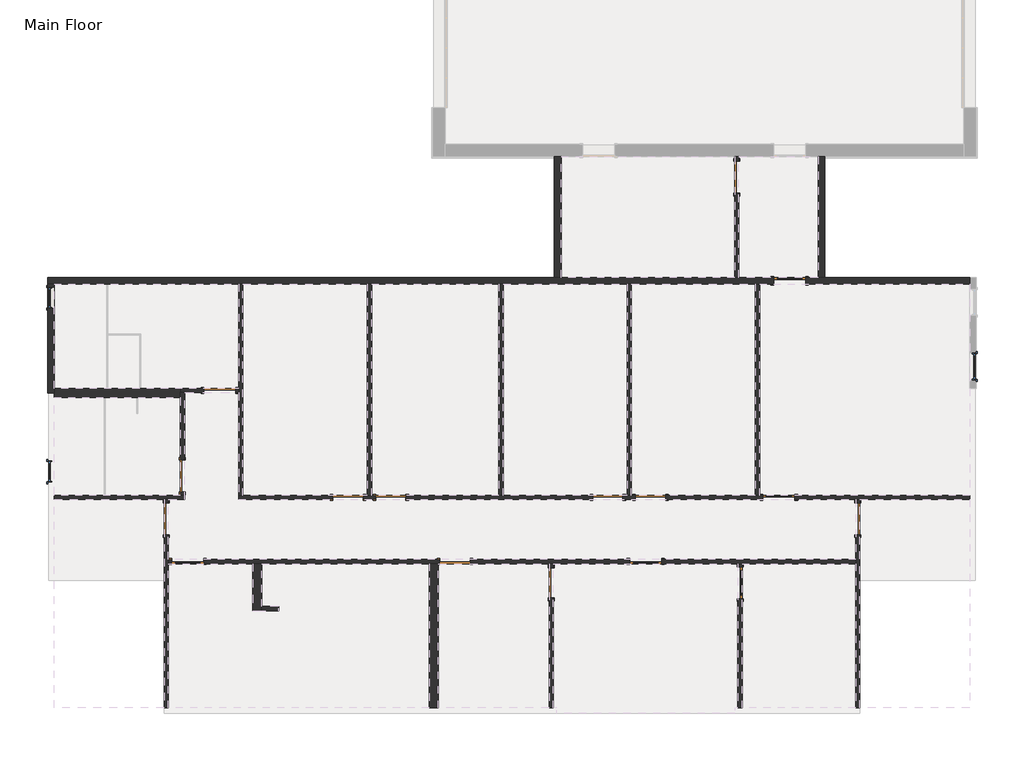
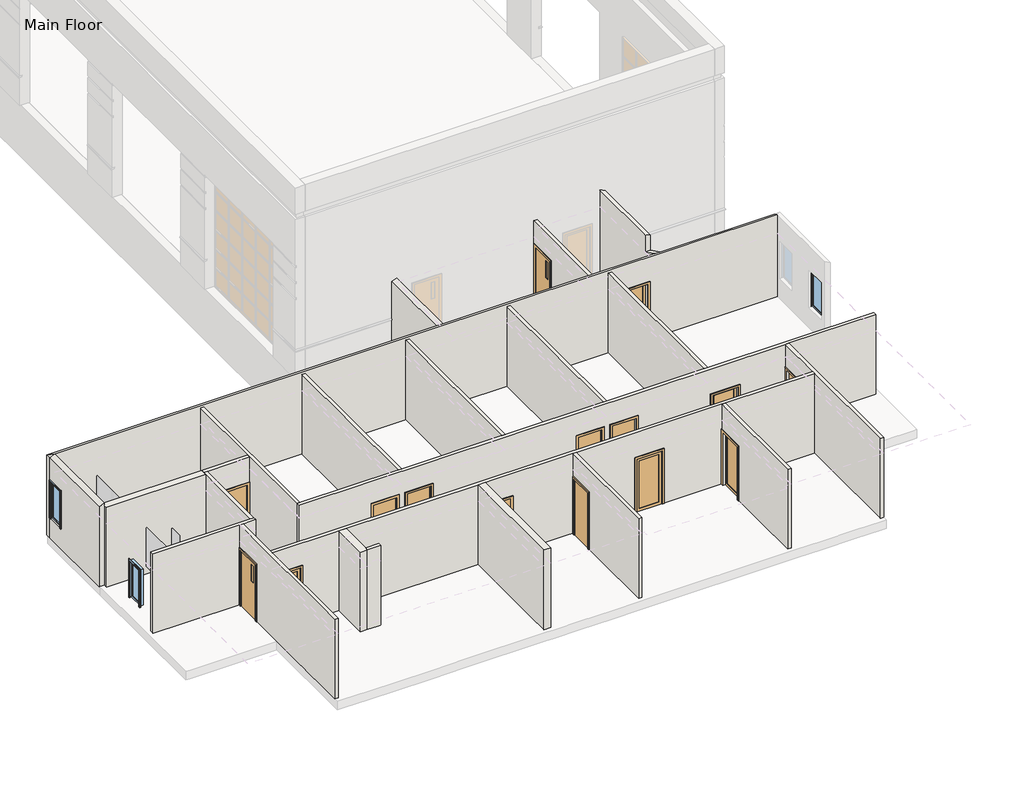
# One storey, part 1 of 3: 23 walls, 16 doors, 3 windows.
"""IFC4 building model written with IfcOpenShell, lengths in millimetres."""

from ifc_helpers import new_model, si_unit, frame, origin, place, context, project, spatial, polyline, outline, extrude, faceted_brep, transform, mapped, element, save
from components import door_7c9e1b45, door_3b0d1d25, door_0f3f7c0c, door_43f271b1, door_2a3d4b99, door_1467a2ec, door_29a6ff79, door_8812bb35, door_9b494dca, door_30311ba1, window_0248c27b, window_3b8f106a

model = new_model("IFC4")

# Units and contexts
model_context = context("Model", 3, world=origin())
ifc_project = project(units=[si_unit("LENGTHUNIT", "METRE", prefix="MILLI")], contexts=[model_context])

# Site, building, storey
site = spatial("IfcSite", under=ifc_project)
building = spatial("IfcBuilding", under=site)
storey = spatial("IfcBuildingStorey", under=building, Name="Main Floor", Elevation=42672.0)

# Doors
placement = place(None, origin())
door_shape = door_7c9e1b45(model_context)
element("IfcDoor", 1, ObjectType="Single-Flush : 34\" x 84\"", at=placement, inside=storey, context=model_context, shape_type="MappedRepresentation", body=[
    mapped(door_shape, transform((-17264.0917336, -9860.0394844, 42672.0), x_axis=(1.0, 0.0, 0.0), y_axis=(0.0, 1.0, 0.0), z_axis=(0.0, 0.0, 1.0))),
])
element("IfcDoor", 2, ObjectType="Single-Flush : 34\" x 84\"", at=placement, inside=storey, context=model_context, shape_type="MappedRepresentation", body=[
    mapped(door_shape, transform((-9858.4042336, -9860.0394844, 42672.0), x_axis=(1.0, 0.0, 0.0), y_axis=(0.0, 1.0, 0.0), z_axis=(0.0, 0.0, 1.0))),
])
element("IfcDoor", 3, ObjectType="Single-Flush : 34\" x 84\"", at=placement, inside=storey, context=model_context, shape_type="MappedRepresentation", body=[
    mapped(door_shape, transform((-14216.0917336, -11688.8394844, 42672.0), x_axis=(-1.0, 0.0, 0.0), y_axis=(0.0, -1.0, 0.0), z_axis=(0.0, 0.0, 1.0))),
])
element("IfcDoor", 4, ObjectType="Single-Flush : 34\" x 84\"", at=placement, inside=storey, context=model_context, shape_type="MappedRepresentation", body=[
    mapped(door_shape, transform((-11472.8917336, -12298.4394844, 42672.0), x_axis=(0.0, 1.0, 0.0), y_axis=(-1.0, 0.0, 0.0), z_axis=(0.0, 0.0, 1.0))),
])
door_2_shape = door_3b0d1d25(model_context)
element("IfcDoor", 5, ObjectType="Single-Flush : 34\" x 84\"", at=placement, inside=storey, context=model_context, shape_type="MappedRepresentation", body=[
    mapped(door_2_shape, transform((-16044.8917336, -9860.0394844, 42672.0), x_axis=(-1.0, 0.0, 0.0), y_axis=(0.0, -1.0, 0.0), z_axis=(0.0, 0.0, 1.0))),
])
element("IfcDoor", 6, ObjectType="Single-Flush : 34\" x 84\"", at=placement, inside=storey, context=model_context, shape_type="MappedRepresentation", body=[
    mapped(door_2_shape, transform((-8639.2042336, -9860.0394844, 42672.0), x_axis=(-1.0, 0.0, 0.0), y_axis=(0.0, -1.0, 0.0), z_axis=(0.0, 0.0, 1.0))),
])
door_3_shape = door_0f3f7c0c(model_context)
element("IfcDoor", 7, ObjectType="Single-Flush : 36\" x 80\"", at=placement, inside=storey, context=model_context, shape_type="MappedRepresentation", body=[
    mapped(door_3_shape, transform((-21988.4917336, -9250.4394844, 42672.0), x_axis=(0.0, -1.0, 0.0), y_axis=(1.0, 0.0, 0.0), z_axis=(0.0, 0.0, 1.0))),
])
door_4_shape = door_43f271b1(model_context)
element("IfcDoor", 8, ObjectType="Single-Flush : 36\" x 80\"", at=placement, inside=storey, context=model_context, shape_type="MappedRepresentation", body=[
    mapped(door_4_shape, transform((-20921.6917336, -6808.8644844, 42672.0), x_axis=(1.0, 0.0, 0.0), y_axis=(0.0, 1.0, 0.0), z_axis=(0.0, 0.0, 1.0))),
])
door_5_shape = door_2a3d4b99(model_context)
element("IfcDoor", 9, ObjectType="Single-Flush Vision : 36\" x 84\"", at=placement, inside=storey, context=model_context, shape_type="MappedRepresentation", body=[
    mapped(door_5_shape, transform((-22445.6917336, -10469.6394844, 42672.0), x_axis=(0.0, 1.0, 0.0), y_axis=(-1.0, 0.0, 0.0), z_axis=(0.0, 0.0, 1.0))),
])
element("IfcDoor", 10, ObjectType="Single-Flush Vision : 36\" x 84\"", at=placement, inside=storey, context=model_context, shape_type="MappedRepresentation", body=[
    mapped(door_5_shape, transform((-6181.7542336, -727.1519844, 42672.0), x_axis=(0.0, 1.0, 0.0), y_axis=(-1.0, 0.0, 0.0), z_axis=(0.0, 0.0, 1.0))),
])
door_6_shape = door_1467a2ec(model_context)
element("IfcDoor", 11, ObjectType="Single-Flush Vision : 36\" x 84\"", at=placement, inside=storey, context=model_context, shape_type="MappedRepresentation", body=[
    mapped(door_6_shape, transform((-2735.2917336, -10469.6394844, 42672.0), x_axis=(0.0, 1.0, 0.0), y_axis=(-1.0, 0.0, 0.0), z_axis=(0.0, 0.0, 1.0))),
])
door_7_shape = door_29a6ff79(model_context)
element("IfcDoor", 12, ObjectType="Single-Glass 1 : 36\" x 80\"", at=placement, inside=storey, context=model_context, shape_type="MappedRepresentation", body=[
    mapped(door_7_shape, transform((-8780.4917336, -11688.8394844, 42672.0), x_axis=(-1.0, 0.0, 0.0), y_axis=(0.0, -1.0, 0.0), z_axis=(0.0, 0.0, 1.0))),
])
door_8_shape = door_8812bb35(model_context)
element("IfcDoor", 13, ObjectType="Single-Glass 1 : 36\" x 80\"", at=placement, inside=storey, context=model_context, shape_type="MappedRepresentation", body=[
    mapped(door_8_shape, transform((-6088.0917336, -12298.4394844, 42672.0), x_axis=(0.0, 1.0, 0.0), y_axis=(-1.0, 0.0, 0.0), z_axis=(0.0, 0.0, 1.0))),
])
element("IfcDoor", 14, ObjectType="Single-Glass 1 : 36\" x 80\"", at=placement, inside=storey, context=model_context, shape_type="MappedRepresentation", body=[
    mapped(door_8_shape, transform((-4981.6042336, -9860.0394844, 42672.0), x_axis=(-1.0, 0.0, 0.0), y_axis=(0.0, -1.0, 0.0), z_axis=(0.0, 0.0, 1.0))),
])
door_9_shape = door_9b494dca(model_context)
element("IfcDoor", 15, ObjectType="Single-Glass 1 : 36\" x 84\"", at=placement, inside=storey, context=model_context, shape_type="MappedRepresentation", body=[
    mapped(door_9_shape, transform((-4676.8042336, -3684.6644844, 42672.0), x_axis=(-1.0, 0.0, 0.0), y_axis=(0.0, -1.0, 0.0), z_axis=(0.0, 0.0, 1.0))),
])
door_10_shape = door_30311ba1(model_context)
element("IfcDoor", 16, ObjectType="Single-Glass 1 : 36\" x 84\"", at=placement, inside=storey, context=model_context, shape_type="MappedRepresentation", body=[
    mapped(door_10_shape, transform((-21836.0917336, -11688.8394844, 42672.0), x_axis=(-1.0, 0.0, 0.0), y_axis=(0.0, -1.0, 0.0), z_axis=(0.0, 0.0, 1.0))),
])

# Walls
element("IfcWall", 17, ObjectType="Exterior - Siding", at=placement, inside=storey, context=model_context, shape_type="Brep", body=[
    faceted_brep([(-25830.2417336, -3778.3269844, 42672.0), (-25642.9167336, -3778.3269844, 42672.0), (-20385.1167336, -3778.3269844, 42672.0), (-20261.2917336, -3778.3269844, 42672.0), (-16716.4042336, -3778.3269844, 42672.0), (-16592.5792336, -3778.3269844, 42672.0), (-12968.3167336, -3778.3269844, 42672.0), (-12844.4917336, -3778.3269844, 42672.0), (-9310.7167336, -3778.3269844, 42672.0), (-9186.8917336, -3778.3269844, 42672.0), (-5653.1167336, -3778.3269844, 42672.0), (-5529.2917336, -3778.3269844, 42672.0), (-5134.0042336, -3778.3269844, 42672.0), (-5134.0042336, -3778.3269844, 44805.6), (-4219.6042336, -3778.3269844, 44805.6), (-4219.6042336, -3778.3269844, 42672.0), (461.9332664, -3778.3269844, 42672.0), (461.9332664, -3778.3269844, 45813.6625), (-25642.9167336, -3778.3269844, 45813.6625), (-25830.2417336, -3778.3269844, 45720.0), (-5134.0042336, -3591.0019844, 44805.6), (-5134.0042336, -3591.0019844, 42672.0), (-6119.8417336, -3591.0019844, 42672.0), (-6243.6667336, -3591.0019844, 42672.0), (-11191.9042336, -3591.0019844, 42672.0), (-11379.2292336, -3591.0019844, 42672.0), (-25830.2417336, -3591.0019844, 42672.0), (-25830.2417336, -3591.0019844, 45720.0), (-3856.0667336, -3591.0019844, 45720.0), (-3668.7417336, -3591.0019844, 45720.0), (461.9332664, -3591.0019844, 45720.0), (461.9332664, -3591.0019844, 42672.0), (-3668.7417336, -3591.0019844, 42672.0), (-3856.0667336, -3591.0019844, 42672.0), (-4219.6042336, -3591.0019844, 42672.0), (-4219.6042336, -3591.0019844, 44805.6)], [[[0, 1, 2, 3, 4, 5, 6, 7, 8, 9, 10, 11, 12, 13, 14, 15, 16, 17, 18, 19]], [[20, 21, 22, 23, 24, 25, 26, 27, 28, 29, 30, 31, 32, 33, 34, 35]], [[26, 25, 24, 23, 22, 21, 12, 11, 10, 9, 8, 7, 6, 5, 4, 3, 2, 1, 0]], [[34, 33, 32, 31, 16, 15]], [[0, 19, 27, 26]], [[17, 16, 31, 30]], [[19, 18, 27]], [[18, 17, 30, 29, 28, 27]], [[13, 12, 21, 20]], [[14, 13, 20, 35]], [[15, 14, 35, 34]]]),
])
element("IfcWall", 18, ObjectType="Exterior - Siding", at=placement, inside=storey, context=model_context, shape_type="Brep", body=[
    faceted_brep([(-25642.9167336, -6877.1269844, 42672.0), (-25642.9167336, -6746.9519844, 42672.0), (-25642.9167336, -3778.3269844, 42672.0), (-25642.9167336, -3778.3269844, 45813.6625), (-25642.9167336, -6877.1269844, 45813.6625), (-25642.9167336, -3859.2894844, 44869.1), (-25642.9167336, -3859.2894844, 43453.05), (-25642.9167336, -4468.8894844, 43453.05), (-25642.9167336, -4468.8894844, 44869.1), (-25830.2417336, -6877.1269844, 42672.0), (-25830.2417336, -6877.1269844, 45720.0), (-25830.2417336, -3778.3269844, 45720.0), (-25830.2417336, -3778.3269844, 42672.0), (-25830.2417336, -3859.2894844, 44869.1), (-25830.2417336, -4468.8894844, 44869.1), (-25830.2417336, -4468.8894844, 43453.05), (-25830.2417336, -3859.2894844, 43453.05), (-25798.4917336, -6877.1269844, 42672.0)], [[[0, 1, 2, 3, 4], [5, 6, 7, 8]], [[9, 10, 11, 12], [13, 14, 15, 16]], [[2, 1, 0, 17, 9, 12]], [[0, 4, 10, 9, 17]], [[3, 2, 12, 11]], [[4, 3, 11, 10]], [[6, 5, 13, 16]], [[7, 6, 16, 15]], [[8, 7, 15, 14]], [[5, 8, 14, 13]]]),
])
element("IfcWall", 19, ObjectType="Exterior - Siding", at=placement, inside=storey, context=model_context, shape_type="Brep", body=[
    faceted_brep([(-11191.9042336, -3591.0019844, 42672.0), (-11191.9042336, -141.3644844, 42672.0), (-11191.9042336, -141.3644844, 45263.215222), (-11191.9042336, -3591.0019844, 45263.215222), (-11379.2292336, -3591.0019844, 42672.0), (-11379.2292336, -3591.0019844, 45197.5831052), (-11379.2292336, -141.3644844, 45197.5831052), (-11379.2292336, -141.3644844, 43808.65), (-11379.2292336, -141.3644844, 43738.8), (-11379.2292336, -141.3644844, 42672.0)], [[[0, 1, 2, 3]], [[4, 5, 6, 7, 8, 9]], [[1, 0, 4, 9]], [[0, 3, 5, 4]], [[2, 1, 9, 8, 7, 6]], [[3, 2, 6, 5]]]),
])
element("IfcWall", 20, ObjectType="Exterior - Siding", at=placement, inside=storey, context=model_context, shape_type="Brep", body=[
    faceted_brep([(-3856.0667336, -141.3644844, 42672.0), (-3856.0667336, -3591.0019844, 42672.0), (-3856.0667336, -3591.0019844, 45720.0), (-3856.0667336, -2981.4019844, 45415.2), (-3856.0667336, -2981.4019844, 46059.4130715), (-3856.0667336, -141.3644844, 46059.4130715), (-3668.7417336, -141.3644844, 42672.0), (-3668.7417336, -141.3644844, 43738.8), (-3668.7417336, -141.3644844, 43808.65), (-3668.7417336, -141.3644844, 45982.5207145), (-3668.7417336, -2981.4019844, 45982.5207145), (-3668.7417336, -2981.4019844, 45415.2), (-3668.7417336, -3591.0019844, 45720.0), (-3668.7417336, -3591.0019844, 42672.0)], [[[0, 1, 2, 3, 4, 5]], [[6, 7, 8, 9, 10, 11, 12, 13]], [[1, 0, 6, 13]], [[2, 1, 13, 12]], [[0, 5, 9, 8, 7, 6]], [[10, 4, 3, 11]], [[3, 2, 12, 11]], [[5, 4, 10, 9]]]),
])
element("IfcWall", 21, ObjectType="Interior - 4 7/8\" Partition (1-hr)", at=placement, inside=storey, context=model_context, shape_type="Brep", body=[
    faceted_brep([(-5438.8042336, -9798.1269844, 44704.0), (-5438.8042336, -9798.1269844, 42672.0), (-5529.2917336, -9798.1269844, 42672.0), (-5653.1167336, -9798.1269844, 42672.0), (-8207.4042336, -9798.1269844, 42672.0), (-8207.4042336, -9798.1269844, 44805.6), (-9071.0042336, -9798.1269844, 44805.6), (-9071.0042336, -9798.1269844, 42672.0), (-9186.8917336, -9798.1269844, 42672.0), (-9310.7167336, -9798.1269844, 42672.0), (-9426.6042336, -9798.1269844, 42672.0), (-9426.6042336, -9798.1269844, 44805.6), (-10290.2042336, -9798.1269844, 44805.6), (-10290.2042336, -9798.1269844, 42672.0), (-12844.4917336, -9798.1269844, 42672.0), (-12968.3167336, -9798.1269844, 42672.0), (-15613.0917336, -9798.1269844, 42672.0), (-15613.0917336, -9798.1269844, 44805.6), (-16476.6917336, -9798.1269844, 44805.6), (-16476.6917336, -9798.1269844, 42672.0), (-16592.5792336, -9798.1269844, 42672.0), (-16716.4042336, -9798.1269844, 42672.0), (-16832.2917336, -9798.1269844, 42672.0), (-16832.2917336, -9798.1269844, 44805.6), (-17695.8917336, -9798.1269844, 44805.6), (-17695.8917336, -9798.1269844, 42672.0), (-20261.2917336, -9798.1269844, 42672.0), (-20385.1167336, -9798.1269844, 42672.0), (-20385.1167336, -9798.1269844, 45720.0), (-20261.2917336, -9798.1269844, 45720.0), (-16716.4042336, -9798.1269844, 45720.0), (-16592.5792336, -9798.1269844, 45720.0), (-12968.3167336, -9798.1269844, 45720.0), (-12844.4917336, -9798.1269844, 45720.0), (-9310.7167336, -9798.1269844, 45720.0), (-9186.8917336, -9798.1269844, 45720.0), (-5653.1167336, -9798.1269844, 45720.0), (-5529.2917336, -9798.1269844, 45720.0), (461.9332664, -9798.1269844, 45720.0), (461.9332664, -9798.1269844, 42672.0), (-4524.4042336, -9798.1269844, 42672.0), (-4524.4042336, -9798.1269844, 44704.0), (-8207.4042336, -9921.9519844, 42672.0), (-5438.8042336, -9921.9519844, 42672.0), (-5438.8042336, -9921.9519844, 44704.0), (-4524.4042336, -9921.9519844, 44704.0), (-4524.4042336, -9921.9519844, 42672.0), (-2797.2042336, -9921.9519844, 42672.0), (-2673.3792336, -9921.9519844, 42672.0), (461.9332664, -9921.9519844, 42672.0), (461.9332664, -9921.9519844, 45720.0), (-2673.3792336, -9921.9519844, 45720.0), (-2797.2042336, -9921.9519844, 45720.0), (-20385.1167336, -9921.9519844, 45720.0), (-20385.1167336, -9921.9519844, 42672.0), (-17695.8917336, -9921.9519844, 42672.0), (-17695.8917336, -9921.9519844, 44805.6), (-16832.2917336, -9921.9519844, 44805.6), (-16832.2917336, -9921.9519844, 42672.0), (-16476.6917336, -9921.9519844, 42672.0), (-16476.6917336, -9921.9519844, 44805.6), (-15613.0917336, -9921.9519844, 44805.6), (-15613.0917336, -9921.9519844, 42672.0), (-10290.2042336, -9921.9519844, 42672.0), (-10290.2042336, -9921.9519844, 44805.6), (-9426.6042336, -9921.9519844, 44805.6), (-9426.6042336, -9921.9519844, 42672.0), (-9071.0042336, -9921.9519844, 42672.0), (-9071.0042336, -9921.9519844, 44805.6), (-8207.4042336, -9921.9519844, 44805.6)], [[[0, 1, 2, 3, 4, 5, 6, 7, 8, 9, 10, 11, 12, 13, 14, 15, 16, 17, 18, 19, 20, 21, 22, 23, 24, 25, 26, 27, 28, 29, 30, 31, 32, 33, 34, 35, 36, 37, 38, 39, 40, 41]], [[42, 43, 44, 45, 46, 47, 48, 49, 50, 51, 52, 53, 54, 55, 56, 57, 58, 59, 60, 61, 62, 63, 64, 65, 66, 67, 68, 69]], [[22, 21, 20, 19, 59, 58]], [[55, 54, 27, 26, 25]], [[10, 9, 8, 7, 67, 66]], [[63, 62, 16, 15, 14, 13]], [[4, 3, 2, 1, 43, 42]], [[40, 39, 49, 48, 47, 46]], [[38, 37, 36, 35, 34, 33, 32, 31, 30, 29, 28, 53, 52, 51, 50]], [[28, 27, 54, 53]], [[39, 38, 50, 49]], [[23, 22, 58, 57]], [[24, 23, 57, 56]], [[25, 24, 56, 55]], [[60, 59, 19, 18]], [[61, 60, 18, 17]], [[62, 61, 17, 16]], [[11, 10, 66, 65]], [[12, 11, 65, 64]], [[13, 12, 64, 63]], [[68, 67, 7, 6]], [[69, 68, 6, 5]], [[42, 69, 5, 4]], [[44, 43, 1, 0]], [[45, 44, 0, 41]], [[46, 45, 41, 40]]]),
])
element("IfcWall", 22, ObjectType="Interior - 4 7/8\" Partition (1-hr)", at=placement, inside=storey, context=model_context, shape_type="Brep", body=[
    faceted_brep([(-20261.2917336, -9798.1269844, 42672.0), (-20261.2917336, -3778.3269844, 42672.0), (-20261.2917336, -3778.3269844, 45720.0), (-20261.2917336, -9798.1269844, 45720.0), (-20385.1167336, -9798.1269844, 42672.0), (-20385.1167336, -9798.1269844, 45720.0), (-20385.1167336, -6870.7769844, 45720.0), (-20385.1167336, -6746.9519844, 45720.0), (-20385.1167336, -3778.3269844, 45720.0), (-20385.1167336, -3778.3269844, 42672.0), (-20385.1167336, -6746.9519844, 42672.0), (-20385.1167336, -6870.7769844, 42672.0)], [[[0, 1, 2, 3]], [[4, 5, 6, 7, 8, 9, 10, 11]], [[1, 0, 4, 11, 10, 9]], [[3, 2, 8, 7, 6, 5]], [[0, 3, 5, 4]], [[2, 1, 9, 8]]]),
])
element("IfcWall", 23, ObjectType="Interior - 4 7/8\" Partition (1-hr)", at=placement, inside=storey, context=model_context, shape_type="Brep", body=[
    faceted_brep([(-22507.6042336, -9921.9519844, 42672.0), (-22507.6042336, -10012.4394844, 42672.0), (-22507.6042336, -10012.4394844, 44805.6), (-22507.6042336, -10926.8394844, 44805.6), (-22507.6042336, -10926.8394844, 42672.0), (-22507.6042336, -15862.3769844, 42672.0), (-22507.6042336, -15862.3769844, 45720.0), (-22507.6042336, -9921.9519844, 45720.0), (-22383.7792336, -10012.4394844, 44805.6), (-22383.7792336, -10012.4394844, 42672.0), (-22383.7792336, -9921.9519844, 42672.0), (-22383.7792336, -9921.9519844, 45720.0), (-22383.7792336, -11626.9269844, 45720.0), (-22383.7792336, -11750.7519844, 45720.0), (-22383.7792336, -15862.3769844, 45720.0), (-22383.7792336, -15862.3769844, 42672.0), (-22383.7792336, -11750.7519844, 42672.0), (-22383.7792336, -11626.9269844, 42672.0), (-22383.7792336, -10926.8394844, 42672.0), (-22383.7792336, -10926.8394844, 44805.6)], [[[0, 1, 2, 3, 4, 5, 6, 7]], [[8, 9, 10, 11, 12, 13, 14, 15, 16, 17, 18, 19]], [[10, 9, 1, 0]], [[18, 17, 16, 15, 5, 4]], [[7, 6, 14, 13, 12, 11]], [[6, 5, 15, 14]], [[0, 7, 11, 10]], [[2, 1, 9, 8]], [[3, 2, 8, 19]], [[4, 3, 19, 18]]]),
])
element("IfcWall", 24, ObjectType="Interior - 4 7/8\" Partition (1-hr)", at=placement, inside=storey, context=model_context, shape_type="Brep", body=[
    faceted_brep([(-2673.3792336, -10012.4394844, 44805.6), (-2673.3792336, -10012.4394844, 42672.0), (-2673.3792336, -9921.9519844, 42672.0), (-2673.3792336, -9921.9519844, 45720.0), (-2673.3792336, -15862.3769844, 45720.0), (-2673.3792336, -15862.3769844, 42672.0), (-2673.3792336, -10926.8394844, 42672.0), (-2673.3792336, -10926.8394844, 44805.6), (-2797.2042336, -9921.9519844, 42672.0), (-2797.2042336, -10012.4394844, 42672.0), (-2797.2042336, -10012.4394844, 44805.6), (-2797.2042336, -10926.8394844, 44805.6), (-2797.2042336, -10926.8394844, 42672.0), (-2797.2042336, -11626.9269844, 42672.0), (-2797.2042336, -11750.7519844, 42672.0), (-2797.2042336, -15862.3769844, 42672.0), (-2797.2042336, -15862.3769844, 45720.0), (-2797.2042336, -11750.7519844, 45720.0), (-2797.2042336, -11626.9269844, 45720.0), (-2797.2042336, -9921.9519844, 45720.0)], [[[0, 1, 2, 3, 4, 5, 6, 7]], [[8, 9, 10, 11, 12, 13, 14, 15, 16, 17, 18, 19]], [[2, 1, 9, 8]], [[6, 5, 15, 14, 13, 12]], [[4, 3, 19, 18, 17, 16]], [[5, 4, 16, 15]], [[3, 2, 8, 19]], [[10, 9, 1, 0]], [[11, 10, 0, 7]], [[12, 11, 7, 6]]]),
])
element("IfcWall", 25, ObjectType="Interior - 4 7/8\" Partition (1-hr)", at=placement, inside=storey, context=model_context, shape_type="Brep", body=[
    faceted_brep([(-9237.6917336, -11626.9269844, 44704.0), (-9237.6917336, -11626.9269844, 42672.0), (-13784.2917336, -11626.9269844, 42672.0), (-13784.2917336, -11626.9269844, 44805.6), (-14647.8917336, -11626.9269844, 44805.6), (-14647.8917336, -11626.9269844, 42672.0), (-21378.8917336, -11626.9269844, 42672.0), (-21378.8917336, -11626.9269844, 44805.6), (-22293.2917336, -11626.9269844, 44805.6), (-22293.2917336, -11626.9269844, 42672.0), (-22383.7792336, -11626.9269844, 42672.0), (-22383.7792336, -11626.9269844, 45720.0), (-2797.2042336, -11626.9269844, 45720.0), (-2797.2042336, -11626.9269844, 42672.0), (-8323.2917336, -11626.9269844, 42672.0), (-8323.2917336, -11626.9269844, 44704.0), (-13784.2917336, -11750.7519844, 42672.0), (-11534.8042336, -11750.7519844, 42672.0), (-11410.9792336, -11750.7519844, 42672.0), (-9237.6917336, -11750.7519844, 42672.0), (-9237.6917336, -11750.7519844, 44704.0), (-8323.2917336, -11750.7519844, 44704.0), (-8323.2917336, -11750.7519844, 42672.0), (-6150.0042336, -11750.7519844, 42672.0), (-6026.1792336, -11750.7519844, 42672.0), (-2797.2042336, -11750.7519844, 42672.0), (-2797.2042336, -11750.7519844, 45720.0), (-6026.1792336, -11750.7519844, 45720.0), (-6150.0042336, -11750.7519844, 45720.0), (-11410.9792336, -11750.7519844, 45720.0), (-11534.8042336, -11750.7519844, 45720.0), (-14695.5167336, -11750.7519844, 45720.0), (-14955.8667336, -11750.7519844, 45720.0), (-19724.7167336, -11750.7519844, 45720.0), (-19985.0667336, -11750.7519844, 45720.0), (-22383.7792336, -11750.7519844, 45720.0), (-22383.7792336, -11750.7519844, 42672.0), (-22293.2917336, -11750.7519844, 42672.0), (-22293.2917336, -11750.7519844, 44805.6), (-21378.8917336, -11750.7519844, 44805.6), (-21378.8917336, -11750.7519844, 42672.0), (-19985.0667336, -11750.7519844, 42672.0), (-19724.7167336, -11750.7519844, 42672.0), (-14955.8667336, -11750.7519844, 42672.0), (-14695.5167336, -11750.7519844, 42672.0), (-14647.8917336, -11750.7519844, 42672.0), (-14647.8917336, -11750.7519844, 44805.6), (-13784.2917336, -11750.7519844, 44805.6)], [[[0, 1, 2, 3, 4, 5, 6, 7, 8, 9, 10, 11, 12, 13, 14, 15]], [[16, 17, 18, 19, 20, 21, 22, 23, 24, 25, 26, 27, 28, 29, 30, 31, 32, 33, 34, 35, 36, 37, 38, 39, 40, 41, 42, 43, 44, 45, 46, 47]], [[10, 9, 37, 36]], [[6, 5, 45, 44, 43, 42, 41, 40]], [[2, 1, 19, 18, 17, 16]], [[14, 13, 25, 24, 23, 22]], [[12, 11, 35, 34, 33, 32, 31, 30, 29, 28, 27, 26]], [[11, 10, 36, 35]], [[13, 12, 26, 25]], [[38, 37, 9, 8]], [[39, 38, 8, 7]], [[40, 39, 7, 6]], [[46, 45, 5, 4]], [[47, 46, 4, 3]], [[16, 47, 3, 2]], [[20, 19, 1, 0]], [[21, 20, 0, 15]], [[22, 21, 15, 14]]]),
])
element("IfcWall", 26, ObjectType="Interior - 4 7/8\" Partition (1-hr)", at=placement, inside=storey, context=model_context, shape_type="SweptSolid", body=[
    extrude(outline(polyline([(-11750.7519844, 42672.0), (-11841.2394844, 42672.0), (-11841.2394844, 44704.0), (-12755.6394844, 44704.0), (-12755.6394844, 42672.0), (-15862.3769844, 42672.0), (-15862.3769844, 45720.0), (-11750.7519844, 45720.0), (-11750.7519844, 42672.0)])), frame((-6150.0042336, 0.0, 0.0), z_axis=(1.0, 0.0, 0.0), x_axis=(0.0, 1.0, 0.0)), (0.0, 0.0, 1.0), 123.825),
])
element("IfcWall", 27, ObjectType="Interior - 4 7/8\" Partition (1-hr)", at=placement, inside=storey, context=model_context, shape_type="SweptSolid", body=[
    extrude(outline(polyline([(-5529.2917336, -3778.3269844), (-5529.2917336, -9798.1269844), (-5653.1167336, -9798.1269844), (-5653.1167336, -3778.3269844), (-5529.2917336, -3778.3269844)])), frame((0.0, 0.0, 42672.0), z_axis=(0.0, 0.0, 1.0), x_axis=(1.0, 0.0, 0.0)), (0.0, 0.0, 1.0), 3048.0),
])
element("IfcWall", 28, ObjectType="Interior - 4 7/8\" Partition (1-hr)", at=placement, inside=storey, context=model_context, shape_type="SweptSolid", body=[
    extrude(outline(polyline([(-9186.8917336, -3778.3269844), (-9186.8917336, -9798.1269844), (-9310.7167336, -9798.1269844), (-9310.7167336, -3778.3269844), (-9186.8917336, -3778.3269844)])), frame((0.0, 0.0, 42672.0), z_axis=(0.0, 0.0, 1.0), x_axis=(1.0, 0.0, 0.0)), (0.0, 0.0, 1.0), 3048.0),
])
element("IfcWall", 29, ObjectType="Interior - 4 7/8\" Partition (1-hr)", at=placement, inside=storey, context=model_context, shape_type="SweptSolid", body=[
    extrude(outline(polyline([(-12844.4917336, -3778.3269844), (-12844.4917336, -9798.1269844), (-12968.3167336, -9798.1269844), (-12968.3167336, -3778.3269844), (-12844.4917336, -3778.3269844)])), frame((0.0, 0.0, 42672.0), z_axis=(0.0, 0.0, 1.0), x_axis=(1.0, 0.0, 0.0)), (0.0, 0.0, 1.0), 3048.0),
])
element("IfcWall", 30, ObjectType="Interior - 4 7/8\" Partition (1-hr)", at=placement, inside=storey, context=model_context, shape_type="SweptSolid", body=[
    extrude(outline(polyline([(-16592.5792336, -3778.3269844), (-16592.5792336, -9798.1269844), (-16716.4042336, -9798.1269844), (-16716.4042336, -3778.3269844), (-16592.5792336, -3778.3269844)])), frame((0.0, 0.0, 42672.0), z_axis=(0.0, 0.0, 1.0), x_axis=(1.0, 0.0, 0.0)), (0.0, 0.0, 1.0), 3048.0),
])
element("IfcWall", 31, ObjectType="Interior - 4 7/8\" Partition (1-hr)", at=placement, inside=storey, context=model_context, shape_type="SweptSolid", body=[
    extrude(outline(polyline([(-11750.7519844, 42672.0), (-11866.6394844, 42672.0), (-11866.6394844, 44805.6), (-12730.2394844, 44805.6), (-12730.2394844, 42672.0), (-15862.3769844, 42672.0), (-15862.3769844, 45720.0), (-11750.7519844, 45720.0), (-11750.7519844, 42672.0)])), frame((-11534.8042336, 0.0, 0.0), z_axis=(1.0, 0.0, 0.0), x_axis=(0.0, 1.0, 0.0)), (0.0, 0.0, 1.0), 123.825),
])
element("IfcWall", 32, ObjectType="Interior - 4 7/8\" Partition (1-hr)", at=placement, inside=storey, context=model_context, shape_type="SweptSolid", body=[
    extrude(outline(polyline([(-19245.2917336, -13093.7769844), (-19724.7167336, -13093.7769844), (-19724.7167336, -12969.9519844), (-19245.2917336, -12969.9519844), (-19245.2917336, -13093.7769844)])), frame((0.0, 0.0, 42672.0), z_axis=(0.0, 0.0, 1.0), x_axis=(1.0, 0.0, 0.0)), (0.0, 0.0, 1.0), 3048.0),
])
element("IfcWall", 33, ObjectType="Interior - 4 7/8\" Partition (1-hr)", at=placement, inside=storey, context=model_context, shape_type="Brep", body=[
    faceted_brep([(-25642.9167336, -9921.9519844, 42672.0), (-22507.6042336, -9921.9519844, 42672.0), (-22383.7792336, -9921.9519844, 42672.0), (-21926.5792336, -9921.9519844, 42672.0), (-21926.5792336, -9921.9519844, 45720.0), (-22383.7792336, -9921.9519844, 45720.0), (-22507.6042336, -9921.9519844, 45720.0), (-25642.9167336, -9921.9519844, 45720.0), (-25642.9167336, -9798.1269844, 42672.0), (-25642.9167336, -9798.1269844, 45720.0), (-22050.4042336, -9798.1269844, 45720.0), (-21926.5792336, -9798.1269844, 45720.0), (-21926.5792336, -9798.1269844, 42672.0), (-22050.4042336, -9798.1269844, 42672.0)], [[[0, 1, 2, 3, 4, 5, 6, 7]], [[8, 9, 10, 11, 12, 13]], [[3, 2, 1, 0, 8, 13, 12]], [[7, 6, 5, 4, 11, 10, 9]], [[4, 3, 12, 11]], [[0, 7, 9, 8]]]),
])
element("IfcWall", 34, ObjectType="Interior - 4 7/8\" Partition (1-hr)", at=placement, inside=storey, context=model_context, shape_type="Brep", body=[
    faceted_brep([(-22050.4042336, -9707.6394844, 44704.0), (-22050.4042336, -9707.6394844, 42672.0), (-22050.4042336, -9798.1269844, 42672.0), (-22050.4042336, -9798.1269844, 45720.0), (-22050.4042336, -7007.3019844, 45720.0), (-22050.4042336, -6870.7769844, 45720.0), (-22050.4042336, -6870.7769844, 42672.0), (-22050.4042336, -7007.3019844, 42672.0), (-22050.4042336, -8793.2394844, 42672.0), (-22050.4042336, -8793.2394844, 44704.0), (-21926.5792336, -9798.1269844, 42672.0), (-21926.5792336, -9707.6394844, 42672.0), (-21926.5792336, -9707.6394844, 44704.0), (-21926.5792336, -8793.2394844, 44704.0), (-21926.5792336, -8793.2394844, 42672.0), (-21926.5792336, -6870.7769844, 42672.0), (-21926.5792336, -6870.7769844, 45720.0), (-21926.5792336, -9798.1269844, 45720.0)], [[[0, 1, 2, 3, 4, 5, 6, 7, 8, 9]], [[10, 11, 12, 13, 14, 15, 16, 17]], [[2, 1, 11, 10]], [[8, 7, 6, 15, 14]], [[5, 4, 3, 17, 16]], [[3, 2, 10, 17]], [[6, 5, 16, 15]], [[12, 11, 1, 0]], [[13, 12, 0, 9]], [[14, 13, 9, 8]]]),
])
element("IfcWall", 35, ObjectType="Interior - 4 7/8\" Partition (1-hr)", at=placement, inside=storey, context=model_context, shape_type="Brep", body=[
    faceted_brep([(-20464.4917336, -6870.7769844, 44704.0), (-20464.4917336, -6870.7769844, 42672.0), (-20385.1167336, -6870.7769844, 42672.0), (-20385.1167336, -6870.7769844, 45720.0), (-21926.5792336, -6870.7769844, 45720.0), (-22050.4042336, -6870.7769844, 45720.0), (-22050.4042336, -6870.7769844, 42672.0), (-21926.5792336, -6870.7769844, 42672.0), (-21378.8917336, -6870.7769844, 42672.0), (-21378.8917336, -6870.7769844, 44704.0), (-20385.1167336, -6746.9519844, 42672.0), (-20464.4917336, -6746.9519844, 42672.0), (-20464.4917336, -6746.9519844, 44704.0), (-21378.8917336, -6746.9519844, 44704.0), (-21378.8917336, -6746.9519844, 42672.0), (-22050.4042336, -6746.9519844, 42672.0), (-22050.4042336, -6746.9519844, 45720.0), (-20385.1167336, -6746.9519844, 45720.0)], [[[0, 1, 2, 3, 4, 5, 6, 7, 8, 9]], [[10, 11, 12, 13, 14, 15, 16, 17]], [[2, 1, 11, 10]], [[8, 7, 6, 15, 14]], [[5, 4, 3, 17, 16]], [[6, 5, 16, 15]], [[3, 2, 10, 17]], [[12, 11, 1, 0]], [[13, 12, 0, 9]], [[14, 13, 9, 8]]]),
])
element("IfcWall", 36, ObjectType="Interior - 4 7/8\" Partition (1-hr)", at=placement, inside=storey, context=model_context, shape_type="SweptSolid", body=[
    extrude(outline(polyline([(-141.3644844, 42672.0), (-269.9519844, 42672.0), (-269.9519844, 44805.6), (-1184.3519844, 44805.6), (-1184.3519844, 42672.0), (-3591.0019844, 42672.0), (-3591.0019844, 45720.0), (-141.3644844, 45720.0), (-141.3644844, 42672.0)])), frame((-6243.6667336, 0.0, 0.0), z_axis=(1.0, 0.0, 0.0), x_axis=(0.0, 1.0, 0.0)), (0.0, 0.0, 1.0), 123.825),
])
element("IfcWall", 37, ObjectType="Interior - Plumbing Chase", at=placement, inside=storey, context=model_context, shape_type="Brep", body=[
    faceted_brep([(-19985.0667336, -11750.7519844, 42672.0), (-19985.0667336, -13093.7769844, 42672.0), (-19985.0667336, -13093.7769844, 45720.0), (-19985.0667336, -11750.7519844, 45720.0), (-19724.7167336, -11750.7519844, 42672.0), (-19724.7167336, -11750.7519844, 45720.0), (-19724.7167336, -12969.9519844, 45720.0), (-19724.7167336, -13093.7769844, 45720.0), (-19724.7167336, -13093.7769844, 42672.0), (-19724.7167336, -12969.9519844, 42672.0)], [[[0, 1, 2, 3]], [[4, 5, 6, 7, 8, 9]], [[1, 0, 4, 9, 8]], [[3, 2, 7, 6, 5]], [[2, 1, 8, 7]], [[0, 3, 5, 4]]]),
])
element("IfcWall", 38, ObjectType="Interior - Plumbing Chase", at=placement, inside=storey, context=model_context, shape_type="SweptSolid", body=[
    extrude(outline(polyline([(-14955.8667336, -15862.3769844), (-14955.8667336, -11750.7519844), (-14695.5167336, -11750.7519844), (-14695.5167336, -15862.3769844), (-14955.8667336, -15862.3769844)])), frame((0.0, 0.0, 42672.0), z_axis=(0.0, 0.0, 1.0), x_axis=(1.0, 0.0, 0.0)), (0.0, 0.0, 1.0), 3048.0),
])
element("IfcWall", 39, ObjectType="Interior - Plumbing Chase", at=placement, inside=storey, context=model_context, shape_type="Brep", body=[
    faceted_brep([(-25642.9167336, -7007.3019844, 42672.0), (-22050.4042336, -7007.3019844, 42672.0), (-22050.4042336, -7007.3019844, 45720.0), (-25642.9167336, -7007.3019844, 45720.0), (-25642.9167336, -6746.9519844, 42672.0), (-25642.9167336, -6746.9519844, 45720.0), (-22050.4042336, -6746.9519844, 45720.0), (-22050.4042336, -6746.9519844, 42672.0), (-25642.9167336, -6877.1269844, 42672.0), (-22050.4042336, -6870.7769844, 42672.0), (-22050.4042336, -6870.7769844, 45720.0)], [[[0, 1, 2, 3]], [[4, 5, 6, 7]], [[1, 0, 8, 4, 7, 9]], [[3, 2, 10, 6, 5]], [[2, 1, 9, 7, 6, 10]], [[0, 3, 5, 4, 8]]]),
])

# Windows
window_shape = window_0248c27b(model_context)
element("IfcWindow", 40, ObjectType="Window 2 : 24\" W", at=placement, inside=storey, context=model_context, shape_type="MappedRepresentation", body=[
    mapped(window_shape, transform((-25736.5792336, -4164.0894844, 42672.0), x_axis=(0.0, 1.0, 0.0), y_axis=(-1.0, 0.0, 0.0), z_axis=(0.0, 0.0, 1.0))),
])
element("IfcWindow", 41, ObjectType="Window 2 : 24\" W", at=placement, inside=storey, context=model_context, shape_type="MappedRepresentation", body=[
    mapped(window_shape, transform((-25736.5792336, -9120.2644844, 42672.0), x_axis=(0.0, 1.0, 0.0), y_axis=(-1.0, 0.0, 0.0), z_axis=(0.0, 0.0, 1.0))),
])
window_2_shape = window_3b8f106a(model_context)
element("IfcWindow", 42, ObjectType="Window 2 : 30\" W", at=placement, inside=storey, context=model_context, shape_type="MappedRepresentation", body=[
    mapped(window_2_shape, transform((555.5957664, -6123.0644844, 42672.0), x_axis=(0.0, -1.0, 0.0), y_axis=(1.0, 0.0, 0.0), z_axis=(0.0, 0.0, 1.0))),
])

save(model, "model.ifc")
